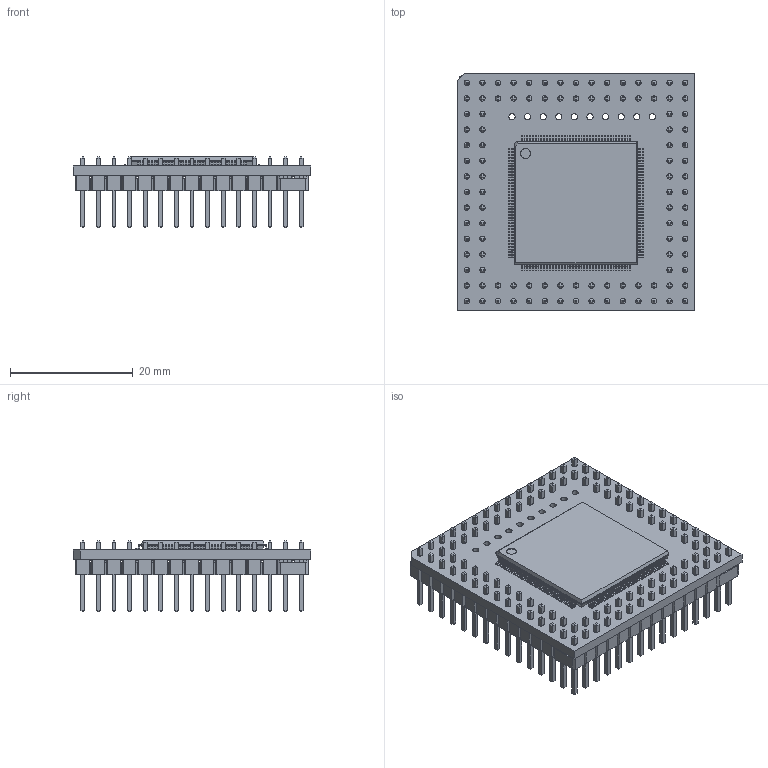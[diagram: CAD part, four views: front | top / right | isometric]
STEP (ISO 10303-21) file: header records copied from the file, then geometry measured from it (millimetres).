
FILE_DESCRIPTION(('Open CASCADE Model'),'2;1');
FILE_NAME('Open CASCADE Shape Model','2020-03-04T14:12:48',('Author'),( 'Open CASCADE'),'Open CASCADE STEP processor 6.8','Open CASCADE 6.8' ,'Unknown');
FILE_SCHEMA(('AUTOMOTIVE_DESIGN { 1 0 10303 214 1 1 1 1 }'));
Length unit declared in the file: millimetre
Products named in the file (52): PCB; Board; U2; SOIC127P600X175-8N; U1; QFP50P2200X2200X160-144N; Open CASCADE STEP translator 6.8 2.3.1.1; Open CASCADE STEP translator 6.8 2.3.1.2; R2; RESC2012X60N; R1; C11; CAPC2012X110N; C10; C9; C8; C7; C6; C5; C4; C3; C2; C1; Free-Models; 65825; Open CASCADE STEP translator 6.8 2.17.1.1; Open CASCADE STEP translator 6.8 2.17.1.2; Open CASCADE STEP translator 6.8 2.17.1.3; Open CASCADE STEP translator 6.8 2.17.1.4; Open CASCADE STEP translator 6.8 2.17.1.5; Open CASCADE STEP translator 6.8 2.17.1.6; Open CASCADE STEP translator 6.8 2.17.1.7; Open CASCADE STEP translator 6.8 2.17.1.8; Open CASCADE STEP translator 6.8 2.17.1.9; Open CASCADE STEP translator 6.8 2.17.1.10; Open CASCADE STEP translator 6.8 2.17.1.11; Open CASCADE STEP translator 6.8 2.17.1.12; Open CASCADE STEP translator 6.8 2.17.1.13; Open CASCADE STEP translator 6.8 2.17.1.14; Open CASCADE STEP translator 6.8 2.17.1.15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
Assembly tree (65 placements, depth 4):
  PCB
    Board
    U2
      SOIC127P600X175-8N
    U1
      QFP50P2200X2200X160-144N
        Open CASCADE STEP translator 6.8 2.3.1.1
        Open CASCADE STEP translator 6.8 2.3.1.2
    R2
      RESC2012X60N
    R1
      RESC2012X60N
    C11
      CAPC2012X110N
    C10
      CAPC2012X110N
    C9
      CAPC2012X110N
    C8
      CAPC2012X110N
    C7
      CAPC2012X110N
    C6
      CAPC2012X110N
    C5
      CAPC2012X110N
    C4
      CAPC2012X110N
    C3
      CAPC2012X110N
    C2
      CAPC2012X110N
    C1
      CAPC2012X110N
    Free-Models
      65825  x4
        Open CASCADE STEP translator 6.8 2.17.1.1
        Open CASCADE STEP translator 6.8 2.17.1.2
        Open CASCADE STEP translator 6.8 2.17.1.3
        Open CASCADE STEP translator 6.8 2.17.1.4
        Open CASCADE STEP translator 6.8 2.17.1.5
        Open CASCADE STEP translator 6.8 2.17.1.6
        Open CASCADE STEP translator 6.8 2.17.1.7
        Open CASCADE STEP translator 6.8 2.17.1.8
        Open CASCADE STEP translator 6.8 2.17.1.9
        Open CASCADE STEP translator 6.8 2.17.1.10
        Open CASCADE STEP translator 6.8 2.17.1.11
        Open CASCADE STEP translator 6.8 2.17.1.12
        Open CASCADE STEP translator 6.8 2.17.1.13
        Open CASCADE STEP translator 6.8 2.17.1.14
        Open CASCADE STEP translator 6.8 2.17.1.15
        Open CASCADE STEP translator 6.8 2.17.1.16
        Open CASCADE STEP translator 6.8 2.17.1.17
        Open CASCADE STEP translator 6.8 2.17.1.18
        Open CASCADE STEP translator 6.8 2.17.1.19
        Open CASCADE STEP translator 6.8 2.17.1.20
        Open CASCADE STEP translator 6.8 2.17.1.21
        Open CASCADE STEP translator 6.8 2.17.1.22
        Open CASCADE STEP translator 6.8 2.17.1.23
        Open CASCADE STEP translator 6.8 2.17.1.24
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Bounding box: 38.61 x 38.61 x 11.67 mm (x, y, z)
Volume: 4668.8 mm3; surface area: 10842.8 mm2
Topology: 302 solids, 302 shells, 5811 faces, 14602 edges, 9313 vertices
Faces by surface type: plane 4161, cylinder 1506, sphere 88, bspline 56
Full cylindrical faces by diameter (mm): 0.889 x104, 1.016 x10
Entity records: 115046 total; most frequent: CARTESIAN_POINT 19260, DIRECTION 18928, ORIENTED_EDGE 18412, EDGE_CURVE 9206, LINE 6566, VECTOR 6566, AXIS2_PLACEMENT_3D 6181, VERTEX_POINT 6057
